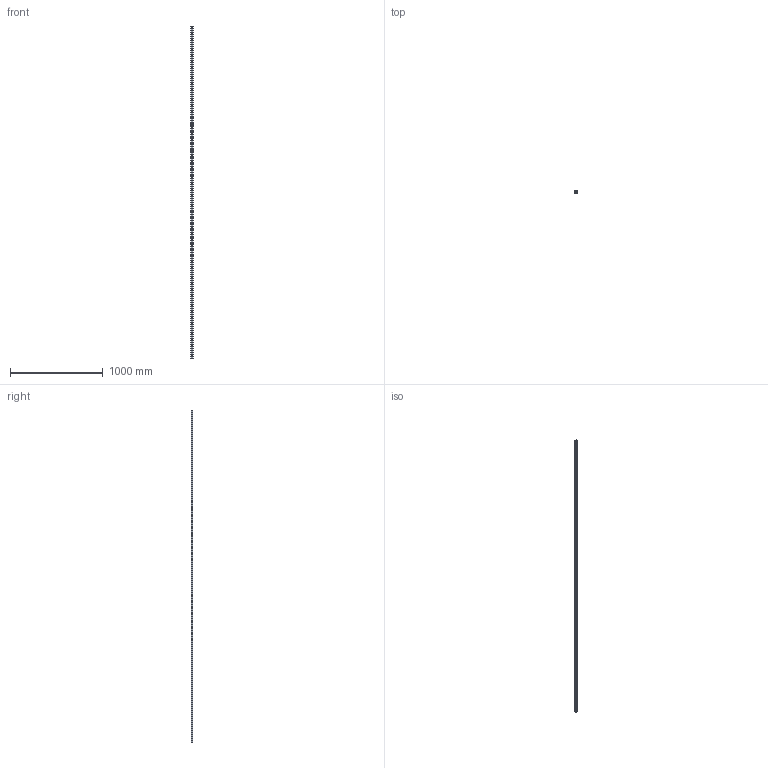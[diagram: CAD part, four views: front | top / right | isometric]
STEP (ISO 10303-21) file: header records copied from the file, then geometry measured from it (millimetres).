
FILE_DESCRIPTION (( 'STEP AP203' ), '1' );
FILE_NAME ('L1016.BRF25-3580.step', '2019-06-13T08:47:27', ( '' ), ( '' ), 'SwSTEP 2.0', 'SolidWorks 2017', '' );
FILE_SCHEMA (( 'CONFIG_CONTROL_DESIGN' ));
Length unit declared in the file: millimetre
Products named in the file (1): L1016.BRF25-3580
Bounding box: 23 x 19.2 x 3580 mm (x, y, z)
Volume: 1366887.6 mm3; surface area: 329262.4 mm2
Topology: 1 solids, 1 shells, 446 faces, 1032 edges, 588 vertices
Faces by surface type: cylinder 244, cone 120, plane 82
Entity records: 11941 total; most frequent: DIRECTION 2294, CARTESIAN_POINT 1947, ORIENTED_EDGE 1824, AXIS2_PLACEMENT_3D 935, EDGE_CURVE 912, VERTEX_POINT 588, EDGE_LOOP 566, CIRCLE 488
